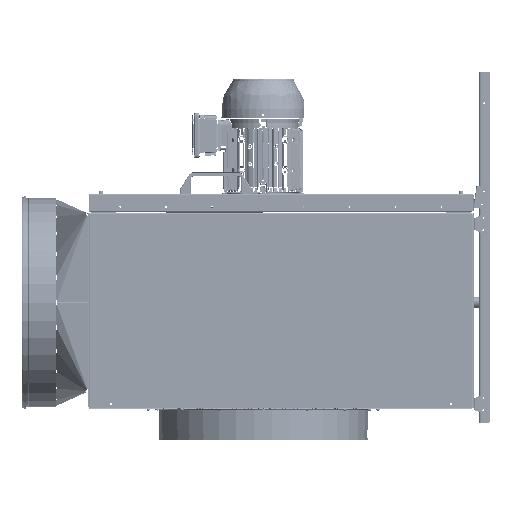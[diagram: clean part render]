
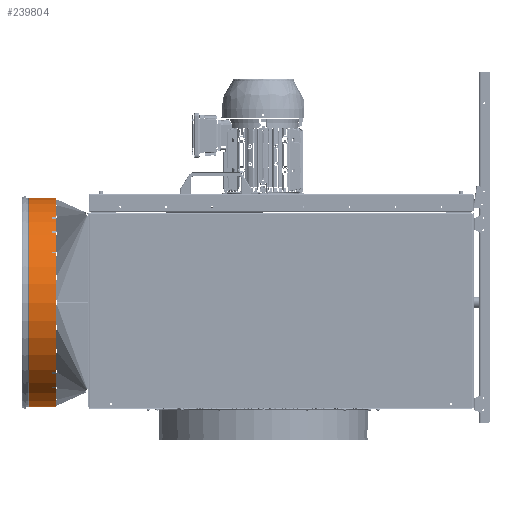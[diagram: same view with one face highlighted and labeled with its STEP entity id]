
A CAD part, left-side view. The second image highlights one B-rep face of the part: STEP entity #239804.
In plain terms, the highlighted cylindrical face has radius 248.5 mm (diameter 497 mm), a partial arc.
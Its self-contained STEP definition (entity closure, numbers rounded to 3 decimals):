
#1514 = CYLINDRICAL_SURFACE ( 'NONE', #131333, 248.5 ) ;
#9590 = CARTESIAN_POINT ( 'NONE',  ( 217.765, 534.17, 501. ) ) ;
#10994 = AXIS2_PLACEMENT_3D ( 'NONE', #38485, #179758, #58866 ) ;
#16578 = LINE ( 'NONE', #259910, #225111 ) ;
#19317 = LINE ( 'NONE', #9590, #139373 ) ;
#20403 = VERTEX_POINT ( 'NONE', #178906 ) ;
#27209 = DIRECTION ( 'NONE',  ( 0., -1., 0. ) ) ;
#29827 = DIRECTION ( 'NONE',  ( 0., -1., 0. ) ) ;
#38485 = CARTESIAN_POINT ( 'NONE',  ( 217.765, 534.17, 252.5 ) ) ;
#58866 = DIRECTION ( 'NONE',  ( 0., 0., 1. ) ) ;
#62911 = CIRCLE ( 'NONE', #10994, 248.5 ) ;
#63656 = DIRECTION ( 'NONE',  ( 0., -1., 0. ) ) ;
#67942 = DIRECTION ( 'NONE',  ( 0., 0., 1. ) ) ;
#99725 = EDGE_CURVE ( 'NONE', #20403, #197379, #261215, .T. ) ;
#104316 = CARTESIAN_POINT ( 'NONE',  ( 217.765, 598.898, 4. ) ) ;
#107157 = ORIENTED_EDGE ( 'NONE', *, *, #99725, .T. ) ;
#121272 = CARTESIAN_POINT ( 'NONE',  ( 217.765, 534.17, 501. ) ) ;
#128784 = CARTESIAN_POINT ( 'NONE',  ( 217.765, 534.17, 252.5 ) ) ;
#131333 = AXIS2_PLACEMENT_3D ( 'NONE', #128784, #27209, #67942 ) ;
#139373 = VECTOR ( 'NONE', #29827, 1000. ) ;
#141588 = CARTESIAN_POINT ( 'NONE',  ( 217.765, 534.17, 4. ) ) ;
#163088 = ORIENTED_EDGE ( 'NONE', *, *, #217118, .F. ) ;
#169001 = FACE_OUTER_BOUND ( 'NONE', #184509, .T. ) ;
#178906 = CARTESIAN_POINT ( 'NONE',  ( 217.765, 598.898, 501. ) ) ;
#179645 = DIRECTION ( 'NONE',  ( 0., -1., 0. ) ) ;
#179758 = DIRECTION ( 'NONE',  ( 0., -1., 0. ) ) ;
#184509 = EDGE_LOOP ( 'NONE', ( #107157, #236351, #163088, #253513 ) ) ;
#184598 = CARTESIAN_POINT ( 'NONE',  ( 217.765, 598.898, 252.5 ) ) ;
#185055 = EDGE_CURVE ( 'NONE', #197379, #244652, #16578, .T. ) ;
#186069 = EDGE_CURVE ( 'NONE', #20403, #191925, #19317, .T. ) ;
#191925 = VERTEX_POINT ( 'NONE', #121272 ) ;
#197379 = VERTEX_POINT ( 'NONE', #104316 ) ;
#204963 = DIRECTION ( 'NONE',  ( 0., 0., 1. ) ) ;
#217118 = EDGE_CURVE ( 'NONE', #191925, #244652, #62911, .T. ) ;
#225111 = VECTOR ( 'NONE', #179645, 1000. ) ;
#236351 = ORIENTED_EDGE ( 'NONE', *, *, #185055, .T. ) ;
#239804 = ADVANCED_FACE ( 'NONE', ( #169001 ), #1514, .T. ) ;
#244652 = VERTEX_POINT ( 'NONE', #141588 ) ;
#245079 = AXIS2_PLACEMENT_3D ( 'NONE', #184598, #63656, #204963 ) ;
#253513 = ORIENTED_EDGE ( 'NONE', *, *, #186069, .F. ) ;
#259910 = CARTESIAN_POINT ( 'NONE',  ( 217.765, 534.17, 4. ) ) ;
#261215 = CIRCLE ( 'NONE', #245079, 248.5 ) ;
